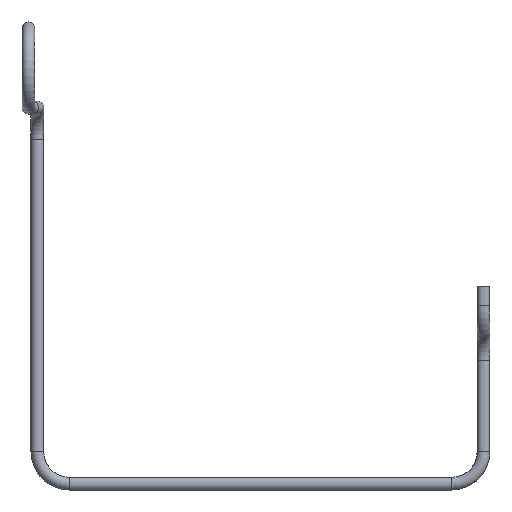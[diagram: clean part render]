
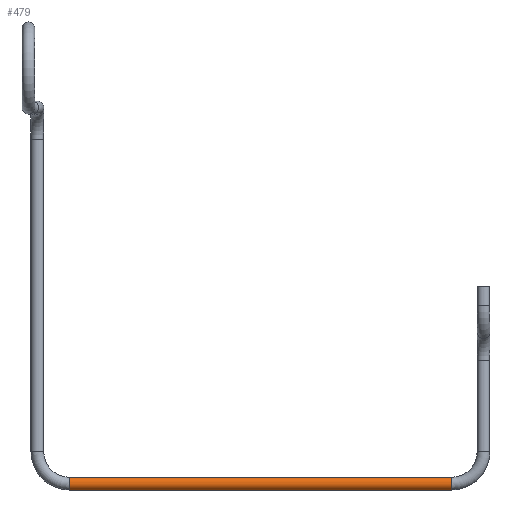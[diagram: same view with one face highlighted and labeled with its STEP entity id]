
A CAD part, left-side view. The second image highlights one B-rep face of the part: STEP entity #479.
In plain terms, the highlighted cylindrical face has radius 1 mm (diameter 2 mm), a full revolution.
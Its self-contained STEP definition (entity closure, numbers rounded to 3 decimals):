
#413 = TOROIDAL_SURFACE('',#414,5.,1.);
#414 = AXIS2_PLACEMENT_3D('',#415,#416,#417);
#415 = CARTESIAN_POINT('',(-225.,505.,153.));
#416 = DIRECTION('',(-1.,0.,-0.));
#417 = DIRECTION('',(0.,1.,0.));
#430 = VERTEX_POINT('',#431);
#431 = CARTESIAN_POINT('',(-224.,505.,148.));
#452 = EDGE_CURVE('',#430,#430,#453,.T.);
#453 = SURFACE_CURVE('',#454,(#459,#466),.PCURVE_S1.);
#454 = CIRCLE('',#455,1.);
#455 = AXIS2_PLACEMENT_3D('',#456,#457,#458);
#456 = CARTESIAN_POINT('',(-225.,505.,148.));
#457 = DIRECTION('',(0.,1.,0.));
#458 = DIRECTION('',(0.,0.,-1.));
#459 = PCURVE('',#413,#460);
#460 = DEFINITIONAL_REPRESENTATION('',(#461),#465);
#461 = LINE('',#462,#463);
#462 = CARTESIAN_POINT('',(1.571,0.));
#463 = VECTOR('',#464,1.);
#464 = DIRECTION('',(0.,1.));
#465 = ( GEOMETRIC_REPRESENTATION_CONTEXT(2) 
PARAMETRIC_REPRESENTATION_CONTEXT() REPRESENTATION_CONTEXT('2D SPACE',''
  ) );
#466 = PCURVE('',#467,#472);
#467 = CYLINDRICAL_SURFACE('',#468,1.);
#468 = AXIS2_PLACEMENT_3D('',#469,#470,#471);
#469 = CARTESIAN_POINT('',(-225.,505.,148.));
#470 = DIRECTION('',(0.,-1.,0.));
#471 = DIRECTION('',(1.,0.,0.));
#472 = DEFINITIONAL_REPRESENTATION('',(#473),#476);
#473 = B_SPLINE_CURVE_WITH_KNOTS('',1,(#474,#475),.UNSPECIFIED.,.F.,.F.,
  (2,2),(4.712,10.996),.PIECEWISE_BEZIER_KNOTS.);
#474 = CARTESIAN_POINT('',(6.283,0.));
#475 = CARTESIAN_POINT('',(0.,0.));
#476 = ( GEOMETRIC_REPRESENTATION_CONTEXT(2) 
PARAMETRIC_REPRESENTATION_CONTEXT() REPRESENTATION_CONTEXT('2D SPACE',''
  ) );
#479 = ADVANCED_FACE('',(#480),#467,.T.);
#480 = FACE_BOUND('',#481,.T.);
#481 = EDGE_LOOP('',(#482,#504,#530,#531));
#482 = ORIENTED_EDGE('',*,*,#483,.T.);
#483 = EDGE_CURVE('',#430,#484,#486,.T.);
#484 = VERTEX_POINT('',#485);
#485 = CARTESIAN_POINT('',(-224.,445.215,148.));
#486 = SEAM_CURVE('',#487,(#491,#497),.PCURVE_S1.);
#487 = LINE('',#488,#489);
#488 = CARTESIAN_POINT('',(-224.,505.,148.));
#489 = VECTOR('',#490,1.);
#490 = DIRECTION('',(0.,-1.,0.));
#491 = PCURVE('',#467,#492);
#492 = DEFINITIONAL_REPRESENTATION('',(#493),#496);
#493 = B_SPLINE_CURVE_WITH_KNOTS('',1,(#494,#495),.UNSPECIFIED.,.F.,.F.,
  (2,2),(0.,59.785),.PIECEWISE_BEZIER_KNOTS.);
#494 = CARTESIAN_POINT('',(6.283,0.));
#495 = CARTESIAN_POINT('',(6.283,59.785));
#496 = ( GEOMETRIC_REPRESENTATION_CONTEXT(2) 
PARAMETRIC_REPRESENTATION_CONTEXT() REPRESENTATION_CONTEXT('2D SPACE',''
  ) );
#497 = PCURVE('',#467,#498);
#498 = DEFINITIONAL_REPRESENTATION('',(#499),#503);
#499 = LINE('',#500,#501);
#500 = CARTESIAN_POINT('',(0.,0.));
#501 = VECTOR('',#502,1.);
#502 = DIRECTION('',(0.,1.));
#503 = ( GEOMETRIC_REPRESENTATION_CONTEXT(2) 
PARAMETRIC_REPRESENTATION_CONTEXT() REPRESENTATION_CONTEXT('2D SPACE',''
  ) );
#504 = ORIENTED_EDGE('',*,*,#505,.F.);
#505 = EDGE_CURVE('',#484,#484,#506,.T.);
#506 = SURFACE_CURVE('',#507,(#512,#519),.PCURVE_S1.);
#507 = CIRCLE('',#508,1.);
#508 = AXIS2_PLACEMENT_3D('',#509,#510,#511);
#509 = CARTESIAN_POINT('',(-225.,445.215,148.));
#510 = DIRECTION('',(0.,-1.,0.));
#511 = DIRECTION('',(1.,0.,0.));
#512 = PCURVE('',#467,#513);
#513 = DEFINITIONAL_REPRESENTATION('',(#514),#518);
#514 = LINE('',#515,#516);
#515 = CARTESIAN_POINT('',(0.,59.785));
#516 = VECTOR('',#517,1.);
#517 = DIRECTION('',(1.,0.));
#518 = ( GEOMETRIC_REPRESENTATION_CONTEXT(2) 
PARAMETRIC_REPRESENTATION_CONTEXT() REPRESENTATION_CONTEXT('2D SPACE',''
  ) );
#519 = PCURVE('',#520,#525);
#520 = TOROIDAL_SURFACE('',#521,5.,1.);
#521 = AXIS2_PLACEMENT_3D('',#522,#523,#524);
#522 = CARTESIAN_POINT('',(-225.,445.215,153.));
#523 = DIRECTION('',(-1.,-0.,-0.));
#524 = DIRECTION('',(0.,0.,-1.));
#525 = DEFINITIONAL_REPRESENTATION('',(#526),#529);
#526 = B_SPLINE_CURVE_WITH_KNOTS('',1,(#527,#528),.UNSPECIFIED.,.F.,.F.,
  (2,2),(0.,6.283),.PIECEWISE_BEZIER_KNOTS.);
#527 = CARTESIAN_POINT('',(0.,10.996));
#528 = CARTESIAN_POINT('',(0.,4.712));
#529 = ( GEOMETRIC_REPRESENTATION_CONTEXT(2) 
PARAMETRIC_REPRESENTATION_CONTEXT() REPRESENTATION_CONTEXT('2D SPACE',''
  ) );
#530 = ORIENTED_EDGE('',*,*,#483,.F.);
#531 = ORIENTED_EDGE('',*,*,#452,.F.);
